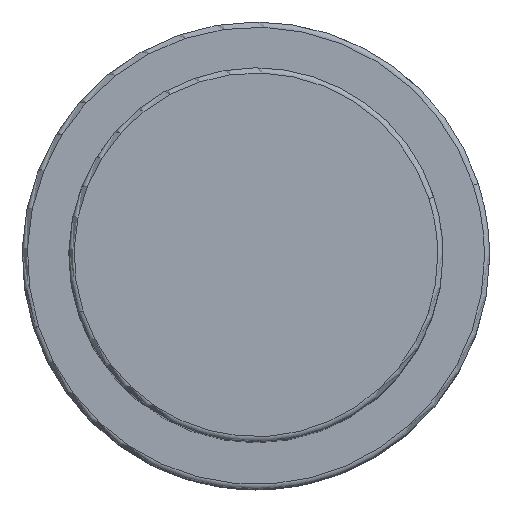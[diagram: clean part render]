
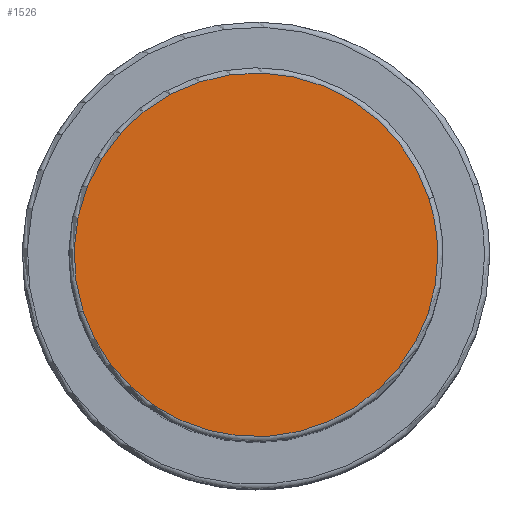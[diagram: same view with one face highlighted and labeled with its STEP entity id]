
A CAD part, top view. The second image highlights one B-rep face of the part: STEP entity #1526.
In plain terms, the highlighted planar face has unit normal (0, 0, 1).
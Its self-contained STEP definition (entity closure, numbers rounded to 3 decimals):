
#1459=CARTESIAN_POINT('',(16.643,5.408,78.0));
#1460=VERTEX_POINT('',#1459);
#1478=CARTESIAN_POINT('',(-16.643,-5.408,78.0));
#1479=VERTEX_POINT('',#1478);
#1487=CARTESIAN_POINT('',(0.0,0.0,78.0));
#1488=DIRECTION('',(0.0,0.0,1.0));
#1489=DIRECTION('',(1.0,0.0,0.0));
#1490=AXIS2_PLACEMENT_3D('',#1487,#1488,#1489);
#1491=CIRCLE('',#1490,17.5);
#1492=EDGE_CURVE('no 1749',#1460,#1479,#1491,.T.);
#1502=CARTESIAN_POINT('',(17.5,0.0,78.0));
#1503=VERTEX_POINT('',#1502);
#1504=CARTESIAN_POINT('',(0.0,0.0,78.0));
#1505=DIRECTION('',(0.0,0.0,1.0));
#1506=DIRECTION('',(1.0,0.0,0.0));
#1507=AXIS2_PLACEMENT_3D('',#1504,#1505,#1506);
#1508=CIRCLE('',#1507,17.5);
#1509=EDGE_CURVE('no 1758',#1503,#1460,#1508,.T.);
#1510=ORIENTED_EDGE('',*,*,#1509,.T.);
#1511=ORIENTED_EDGE('',*,*,#1492,.T.);
#1512=CARTESIAN_POINT('',(0.0,0.0,78.0));
#1513=DIRECTION('',(0.0,0.0,1.0));
#1514=DIRECTION('',(1.0,0.0,0.0));
#1515=AXIS2_PLACEMENT_3D('',#1512,#1513,#1514);
#1516=CIRCLE('',#1515,17.5);
#1517=EDGE_CURVE('no 1764',#1479,#1503,#1516,.T.);
#1518=ORIENTED_EDGE('',*,*,#1517,.T.);
#1519=EDGE_LOOP('',(#1510,#1511,#1518));
#1520=FACE_OUTER_BOUND('',#1519,.T.);
#1521=CARTESIAN_POINT('',(0.0,0.0,78.0));
#1522=DIRECTION('',(0.0,0.0,1.0));
#1523=DIRECTION('',(1.0,0.0,0.0));
#1524=AXIS2_PLACEMENT_3D('',#1521,#1522,#1523);
#1525=PLANE('',#1524);
#1526=ADVANCED_FACE('no 1751',(#1520),#1525,.T.);
